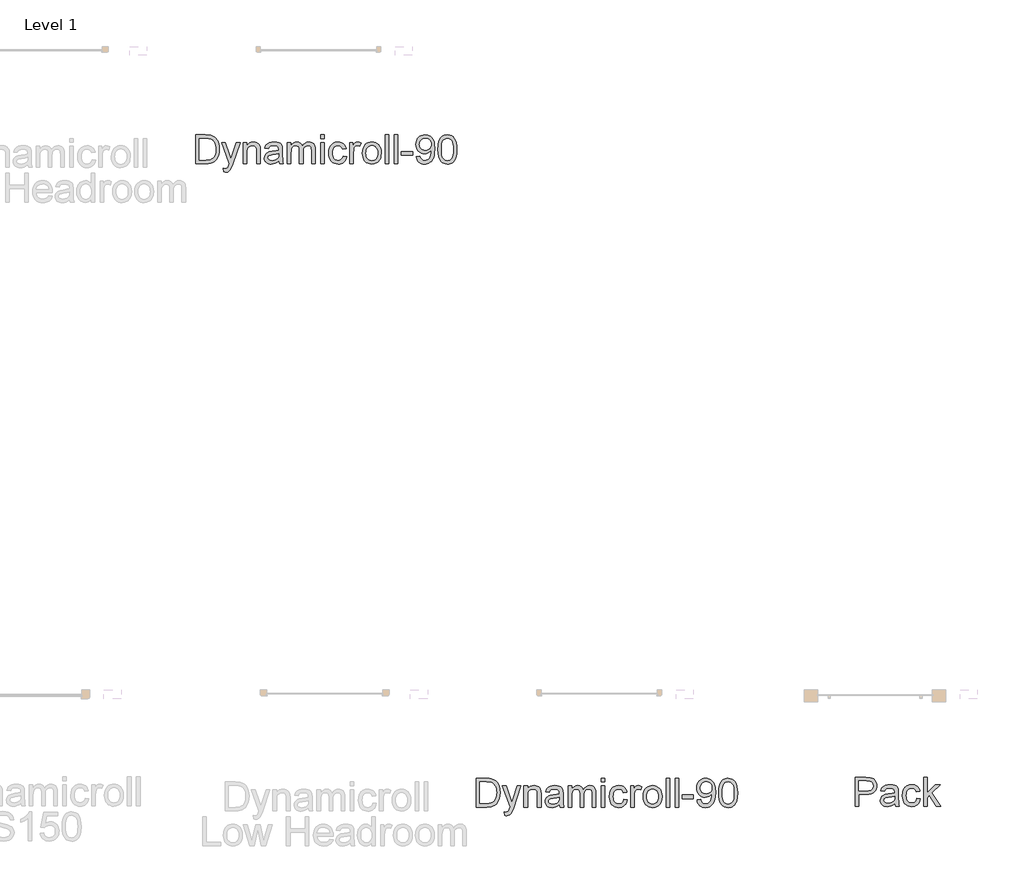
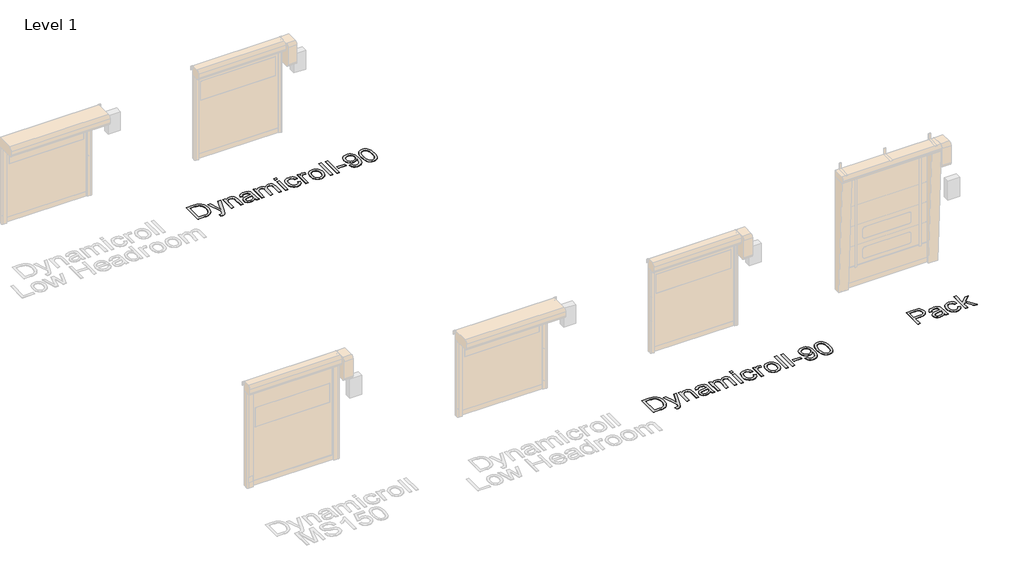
# One storey, part 11 of 20: 3 proxies.
"""IFC4 building model written with IfcOpenShell, lengths in millimetres."""

import ifcopenshell
import ifcopenshell.guid

model = None  # the IFC model being written
_history = None  # IfcOwnerHistory: only IFC2X3 demands one
_inside = {}  # id of a spatial element -> (the spatial element, [elements in it])
_under = {}  # id of a project, library or spatial element -> (it, [spatial elements below it])
_declared = {}  # id of a project -> (the project, [libraries it declares])
_typed = {}  # id of a type object -> (the type object, [elements of that type])
_made_of = {}  # id of a material, layer set ... -> (it, [elements and type objects made of it])


def new_model(schema):
    """Start an empty IFC model of exactly this schema.

    Asked for "IFC4X3", IfcOpenShell would pick the latest addendum, in which some entities
    have other attributes; the version numbers below select the first issue.
    IFC2X3 requires an IfcOwnerHistory on every rooted entity: one is made here for all.
    """
    global model, _history
    if schema == "IFC4X3":
        model = ifcopenshell.file(schema_version=(4, 3, 0, 0))
    else:
        model = ifcopenshell.file(schema=schema)
    _inside.clear()
    _under.clear()
    _declared.clear()
    _typed.clear()
    _made_of.clear()
    _history = None
    if model.schema == "IFC2X3":
        org = make("IfcOrganization", Name="unknown")
        user = make(
            "IfcPersonAndOrganization",
            ThePerson=make("IfcPerson", FamilyName="unknown"),
            TheOrganization=org,
        )
        app = make(
            "IfcApplication",
            ApplicationDeveloper=org,
            Version="unknown",
            ApplicationFullName="unknown",
            ApplicationIdentifier="unknown",
        )
        _history = make(
            "IfcOwnerHistory",
            OwningUser=user,
            OwningApplication=app,
            ChangeAction="ADDED",
            CreationDate=0,
        )
    return model


def make(cls, **values):
    """One entity of the class cls with the attributes given. An attribute that is None is left unset."""
    return model.create_entity(
        cls, **{name: value for name, value in values.items() if value is not None}
    )


def rooted(cls, **values):
    """An entity with a GlobalId (a new one), such as an element, a storey or a relation."""
    return make(cls, GlobalId=ifcopenshell.guid.new(), OwnerHistory=_history, **values)


def si_unit(unit_type, name, prefix=None):
    """IfcSIUnit, for example si_unit("LENGTHUNIT", "METRE", prefix="MILLI")."""
    return make("IfcSIUnit", UnitType=unit_type, Prefix=prefix, Name=name)


def assignment(units):
    """IfcUnitAssignment: the units of a project."""
    return None if units is None else make("IfcUnitAssignment", Units=units)


def point(xyz):
    """IfcCartesianPoint."""
    return None if xyz is None else make("IfcCartesianPoint", Coordinates=xyz)


def direction(xyz):
    """IfcDirection."""
    return None if xyz is None else make("IfcDirection", DirectionRatios=xyz)


def frame(location, z_axis=None, x_axis=None):
    """IfcAxis2Placement3D, a coordinate frame: its origin and axes. An axis left out is left unset."""
    return make(
        "IfcAxis2Placement3D",
        Location=point(location),
        Axis=direction(z_axis),
        RefDirection=direction(x_axis),
    )


def origin():
    """The frame at (0, 0, 0) with its axes left unset."""
    return frame((0.0, 0.0, 0.0))


def origin_with_axes():
    """The frame at (0, 0, 0) with the z axis (0, 0, 1) and the x axis (1, 0, 0) written out."""
    return frame((0.0, 0.0, 0.0), z_axis=(0.0, 0.0, 1.0), x_axis=(1.0, 0.0, 0.0))


def place(relative_to, where):
    """IfcLocalPlacement: puts the frame where relative to a parent placement (None: the world)."""
    return make(
        "IfcLocalPlacement", PlacementRelTo=relative_to, RelativePlacement=where
    )


def context(
    kind, dimensions, precision=None, world=None, true_north=None, identifier=None
):
    """IfcGeometricRepresentationContext, for example the 3D "Model" context."""
    return make(
        "IfcGeometricRepresentationContext",
        ContextIdentifier=identifier,
        ContextType=kind,
        CoordinateSpaceDimension=dimensions,
        Precision=precision,
        WorldCoordinateSystem=world,
        TrueNorth=true_north,
    )


def project(units=None, contexts=None):
    """IfcProject with its units and contexts."""
    return rooted(
        "IfcProject",
        Name="project",
        RepresentationContexts=contexts,
        UnitsInContext=assignment(units),
    )


def spatial(cls, under=None, at=None, **own):
    """A site, building, storey or space (cls), placed at a placement, below another one or the project."""
    s = rooted(cls, ObjectPlacement=at, **own)
    if under is not None:
        _under.setdefault(under.id(), (under, []))[1].append(s)
    return s


def polyline(points):
    """IfcPolyline through the points."""
    return make("IfcPolyline", Points=[point(p) for p in points])


def outline(outer, holes=None, kind="AREA"):
    """IfcArbitraryClosedProfileDef: a profile drawn as a closed curve; with holes, ...WithVoids."""
    if holes is None:
        return make("IfcArbitraryClosedProfileDef", ProfileType=kind, OuterCurve=outer)
    return make(
        "IfcArbitraryProfileDefWithVoids",
        ProfileType=kind,
        OuterCurve=outer,
        InnerCurves=holes,
    )


def extrude(swept, where, along, depth):
    """IfcExtrudedAreaSolid: the profile swept, set in the frame where, extruded along a direction by depth."""
    return make(
        "IfcExtrudedAreaSolid",
        SweptArea=swept,
        Position=where,
        ExtrudedDirection=direction(along),
        Depth=depth,
    )


def shape(context_of_items, identifier, shape_type, items):
    """IfcShapeRepresentation: the items that make up one representation, for example the "Body"."""
    return make(
        "IfcShapeRepresentation",
        ContextOfItems=context_of_items,
        RepresentationIdentifier=identifier,
        RepresentationType=shape_type,
        Items=items,
    )


def made_of(thing, what):
    """Note that an element or type object is made of a material, layer set ...; save() writes the relation."""
    if what is not None:
        _made_of.setdefault(what.id(), (what, []))[1].append(thing)
    return thing


def element(
    cls,
    number,
    at=None,
    inside=None,
    cuts=None,
    type_object=None,
    material=None,
    context=None,
    identifier="Body",
    shape_type=None,
    held_by="IfcProductDefinitionShape",
    body=None,
    shapes=None,
    **own,
):
    """One element of the class cls, such as IfcWall. Its Tag is "e" and its number.

    at: its placement. inside: the storey or other place that contains it. cuts: it is an
    opening in that element (IfcRelVoidsElement). A single representation is given by context,
    identifier, shape_type and body (its items); several are given by shapes. held_by: the class
    of the entity that holds the representations. save() writes the other relations.
    """
    e = rooted(cls, Tag="e%d" % number, ObjectPlacement=at, **own)
    if body is not None:
        shapes = [shape(context, identifier, shape_type, body)]
    if shapes is not None:
        e.Representation = make(held_by, Representations=shapes)
    if inside is not None:
        _inside.setdefault(inside.id(), (inside, []))[1].append(e)
    if cuts is not None:
        rooted(
            "IfcRelVoidsElement", RelatingBuildingElement=cuts, RelatedOpeningElement=e
        )
    if type_object is not None:
        _typed.setdefault(type_object.id(), (type_object, []))[1].append(e)
    return made_of(e, material)


def aggregate(whole, parts):
    """IfcRelAggregates: a whole, such as a stair, and the parts it consists of."""
    return rooted("IfcRelAggregates", RelatingObject=whole, RelatedObjects=parts)


def save(model, path):
    """Write the relations noted so far, then the file.

    IfcRelAggregates (storeys below a building ...), IfcRelContainedInSpatialStructure (elements
    in a storey), IfcRelDefinesByType, IfcRelAssociatesMaterial and IfcRelDeclares: one each for
    every whole, place, type object, material and project.
    """
    for whole, parts in _under.values():
        aggregate(whole, parts)
    for where, things in _inside.values():
        rooted(
            "IfcRelContainedInSpatialStructure",
            RelatedElements=things,
            RelatingStructure=where,
        )
    for kind, things in _typed.values():
        rooted("IfcRelDefinesByType", RelatedObjects=things, RelatingType=kind)
    for what, things in _made_of.values():
        rooted("IfcRelAssociatesMaterial", RelatedObjects=things, RelatingMaterial=what)
    for by, libraries in _declared.values():
        rooted("IfcRelDeclares", RelatingContext=by, RelatedDefinitions=libraries)
    model.write(path)


model = new_model("IFC4")

# Units and contexts
model_context = context("Model", 3, world=origin())
ifc_project = project(units=[si_unit("LENGTHUNIT", "METRE", prefix="MILLI")], contexts=[model_context])

# Site, building, storey
site = spatial("IfcSite", under=ifc_project)
building = spatial("IfcBuilding", under=site)
storey = spatial("IfcBuildingStorey", under=building, Name="Level 1", Elevation=0.0)

# Proxies
placement = place(None, origin())
element("IfcBuildingElementProxy", 1, Name="500mm", ObjectType="500mm", at=placement, inside=storey, context=model_context, shape_type="SweptSolid", body=[
    extrude(outline(polyline([(14635.3862268, 30417.6094957), (14635.3862268, 30919.8910465), (14808.6586466, 30919.8910465), (14860.4380374, 30918.0822933), (14898.299226, 30912.6560339), (14938.3370499, 30898.7071749), (14972.1208797, 30876.7262257), (14990.7372415, 30858.7613216), (15006.8550715, 30838.4664982), (15020.4743695, 30815.8417555), (15031.5951356, 30790.8870935), (15046.4023859, 30734.9077166), (15051.338136, 30671.4480724), (15047.9965413, 30617.5380317), (15037.9717569, 30570.0965827), (15022.7046541, 30529.7062053), (15003.636104, 30496.9493794), (14981.6858116, 30471.0903408), (14957.7734819, 30451.3933256), (14930.320288, 30436.7853447), (14897.7474031, 30426.193409), (14859.9935133, 30419.755474), (14816.9973051, 30417.6094957), (14635.3862268, 30417.6094957)]), holes=[polyline([(14698.1714207, 30480.3946896), (14809.2717832, 30480.3946896), (14855.2263758, 30482.6632952), (14890.0831948, 30489.4691121), (14916.3867575, 30500.4136015), (14936.6815809, 30515.0982245), (14958.4939175, 30542.2755068), (14974.8799947, 30577.4542226), (14985.1347053, 30620.787656), (14988.5529422, 30672.4290911), (14986.8783127, 30708.8800654), (14981.8544242, 30740.8551422), (14973.4812767, 30768.3543213), (14961.7588702, 30791.3776028), (14947.6375665, 30810.4461529), (14932.0677275, 30826.0811377), (14915.0493531, 30838.2825572), (14896.5824434, 30847.0504114), (14860.4686942, 30854.5919923), (14807.5550006, 30857.1058526), (14698.1714207, 30857.1058526), (14698.1714207, 30480.3946896)])]), origin_with_axes(), (0.0, 0.0, 1.0), 5.0),
    extrude(outline(polyline([(15129.8196283, 30276.3428096), (15121.9714791, 30336.7980841), (15153.8545854, 30331.2798542), (15170.623873, 30333.0119653), (15183.653027, 30338.2082984), (15193.8004387, 30346.5009717), (15201.9244994, 30357.5221032), (15219.0923258, 30403.7526072), (15223.9974191, 30418.9583964), (15090.5788822, 30786.4725096), (15156.7976413, 30786.4725096), (15227.5536117, 30581.6848656), (15252.2017054, 30499.769808), (15276.8497991, 30572.1199337), (15349.5678068, 30786.4725096), (15415.2960566, 30786.4725096), (15286.9052403, 30408.7803278), (15253.5506061, 30326.8652703), (15236.4747501, 30300.7149918), (15217.1302885, 30282.5968035), (15194.65883, 30272.0201961), (15168.2019832, 30268.4946604), (15150.0224812, 30270.4566977), (15129.8196283, 30276.3428096)])), origin_with_axes(), (0.0, 0.0, 1.0), 5.0),
    extrude(outline(polyline([(15467.2900453, 30417.6094957), (15467.2900453, 30786.4725096), (15530.0752391, 30786.4725096), (15530.0752391, 30734.9690302), (15551.8875757, 30760.9353677), (15578.0838395, 30779.4827517), (15608.6640303, 30790.611182), (15643.6281483, 30794.3206588), (15674.5762211, 30791.3316176), (15702.9184632, 30782.3644939), (15726.5548814, 30768.5382623), (15743.3854826, 30750.971897), (15754.8051529, 30729.7113834), (15762.2087781, 30704.8027066), (15765.519716, 30644.1021774), (15765.519716, 30417.6094957), (15702.7345222, 30417.6094957), (15702.7345222, 30635.6408915), (15700.925769, 30668.1064776), (15695.4995096, 30691.1910728), (15685.4900536, 30707.7304342), (15669.9317109, 30720.5603188), (15649.9894411, 30728.7916784), (15626.8282038, 30731.5354649), (15607.7634859, 30729.9949591), (15590.0553327, 30725.3734415), (15573.7037445, 30717.6709123), (15558.7087211, 30706.8873713), (15546.1815727, 30691.7965453), (15537.2336096, 30671.1721609), (15531.8648317, 30645.0142182), (15530.0752391, 30613.3227172), (15530.0752391, 30417.6094957), (15467.2900453, 30417.6094957)])), origin_with_axes(), (0.0, 0.0, 1.0), 5.0),
    extrude(outline(polyline([(16087.2938345, 30464.6983911), (16057.2961234, 30438.9773083), (16026.4093643, 30422.146707), (15993.9284498, 30412.8576866), (15959.1482728, 30409.7613465), (15931.1930733, 30411.6237491), (15906.6791032, 30417.2109569), (15885.6063627, 30426.5229699), (15867.9748517, 30439.5597881), (15854.0528174, 30455.493677), (15844.1085072, 30473.4969022), (15838.1419211, 30493.5694635), (15836.1530591, 30515.7113611), (15839.1574287, 30541.7390123), (15848.1705376, 30565.3754305), (15862.0734113, 30585.6089402), (15879.7470755, 30601.427866), (15900.5170798, 30613.3840308), (15923.7089739, 30622.0292577), (15978.0328819, 30631.4715623), (16042.2282901, 30641.4043761), (16086.9259525, 30653.0539726), (16087.2938345, 30667.0334885), (16082.971221, 30695.0538338), (16070.0033807, 30713.3866199), (16056.9282414, 30721.3267396), (16041.0020167, 30726.9982537), (16000.5963109, 30731.5354649), (15963.1949748, 30728.5157669), (15937.0753531, 30719.4566728), (15919.2637332, 30702.7027136), (15906.7864022, 30676.5984203), (15844.0012083, 30684.4465696), (15854.8997124, 30718.7822224), (15871.1631623, 30745.7602354), (15894.3090712, 30766.392284), (15925.8549522, 30781.6900436), (15964.4365765, 30791.163005), (16008.6897148, 30794.3206588), (16051.1341, 30791.530887), (16084.7799742, 30783.1615716), (16110.1485034, 30770.5769417), (16127.7608539, 30755.1412263), (16139.4411073, 30736.0573478), (16147.013345, 30712.5282285), (16150.0790283, 30657.5911839), (16150.0790283, 30579.4775736), (16153.2673389, 30470.400562), (16157.9884912, 30443.4378775), (16165.7753268, 30417.6094957), (16102.9901329, 30417.6094957), (16092.9346917, 30439.4371608), (16087.2938345, 30464.6983911)]), holes=[polyline([(16087.2938345, 30590.2687788), (16045.1100323, 30579.8147988), (15986.0036585, 30571.0162877), (15931.9863188, 30560.8382192), (15917.9301609, 30553.8791181), (15907.5221662, 30544.2835294), (15901.0842312, 30532.7872171), (15898.9382529, 30520.1259451), (15903.61342, 30501.4559338), (15917.638921, 30486.1581742), (15940.7081878, 30475.9494488), (15972.514652, 30472.5465403), (16006.2371682, 30476.3020024), (16036.0356098, 30487.5683885), (16060.1931941, 30504.1690635), (16076.9931386, 30523.9273923), (16084.442749, 30544.2835294), (16086.9259525, 30572.4878157), (16087.2938345, 30590.2687788)])]), origin_with_axes(), (0.0, 0.0, 1.0), 5.0),
    extrude(outline(polyline([(16236.4086698, 30417.6094957), (16236.4086698, 30786.4725096), (16299.1938637, 30786.4725096), (16299.1938637, 30725.7719804), (16318.0784728, 30753.6543699), (16342.3586844, 30775.4973634), (16371.2067642, 30789.6148349), (16403.7949776, 30794.3206588), (16438.7131104, 30789.5228644), (16466.7027988, 30775.1294814), (16487.6107589, 30752.0908714), (16501.2837064, 30721.3573964), (16524.1690321, 30753.2788237), (16550.2733254, 30776.0798432), (16579.5965861, 30789.7604549), (16612.1388142, 30794.3206588), (16637.2735851, 30792.4237673), (16659.3350085, 30786.7330926), (16678.3230844, 30777.248635), (16694.2378128, 30763.9703942), (16706.8186107, 30746.7450862), (16715.8048948, 30725.4194268), (16721.1966653, 30699.993416), (16722.9939221, 30670.4670537), (16722.9939221, 30417.6094957), (16660.2087283, 30417.6094957), (16660.2087283, 30643.4890408), (16658.7525287, 30674.8049956), (16654.38393, 30695.9122251), (16646.1985556, 30710.3669218), (16633.292029, 30721.7252784), (16616.6913539, 30729.0829183), (16597.4235344, 30731.5354649), (16579.631075, 30729.9643023), (16563.4097783, 30725.2508142), (16548.7596443, 30717.3950008), (16535.6806729, 30706.3968619), (16524.9239567, 30691.934501), (16517.2405879, 30673.6860212), (16512.6305667, 30651.6514225), (16511.0938929, 30625.830705), (16511.0938929, 30417.6094957), (16448.3086991, 30417.6094957), (16448.3086991, 30650.4787987), (16444.6758644, 30685.9794112), (16433.7773603, 30711.3019552), (16425.3505633, 30720.1541157), (16414.6015113, 30726.4770875), (16386.1366419, 30731.5354649), (16361.9484007, 30728.1632133), (16339.6608832, 30718.0464585), (16321.2667834, 30701.430455), (16308.7587956, 30678.5604576), (16301.5850967, 30646.8306356), (16299.1938637, 30603.635158), (16299.1938637, 30417.6094957), (16236.4086698, 30417.6094957)])), origin_with_axes(), (0.0, 0.0, 1.0), 5.0),
    extrude(outline(polyline([(16817.1717129, 30857.1058526), (16817.1717129, 30919.8910465), (16879.9569067, 30919.8910465), (16879.9569067, 30857.1058526), (16817.1717129, 30857.1058526)])), origin_with_axes(), (0.0, 0.0, 1.0), 5.0),
    extrude(outline(polyline([(16817.1717129, 30417.6094957), (16817.1717129, 30786.4725096), (16879.9569067, 30786.4725096), (16879.9569067, 30417.6094957), (16817.1717129, 30417.6094957)])), origin_with_axes(), (0.0, 0.0, 1.0), 5.0),
    extrude(outline(polyline([(17209.5791744, 30551.0280326), (17272.3643683, 30543.1798834), (17265.5355587, 30513.5538865), (17254.8593167, 30487.3384622), (17240.3356421, 30464.5336106), (17221.9645349, 30445.1393317), (17200.5200803, 30429.6614632), (17176.7763632, 30418.6058428), (17150.7333836, 30411.9724706), (17122.3911416, 30409.7613465), (17087.1779368, 30412.8461903), (17055.605231, 30422.1007218), (17027.6730241, 30437.5249408), (17003.3813161, 30459.1188475), (16983.7187899, 30486.4762388), (16969.6741283, 30519.1909116), (16961.2473314, 30557.262866), (16958.438399, 30600.692102), (16963.2361934, 30656.56418), (16977.6295765, 30704.9866476), (16988.4820953, 30725.9367608), (17001.8484745, 30744.089438), (17017.7287139, 30759.4446792), (17036.1228137, 30772.0024844), (17077.1263277, 30788.7411152), (17121.5327502, 30794.3206588), (17149.3883151, 30792.4046067), (17174.5843996, 30786.6564506), (17197.1210039, 30777.0761903), (17216.998128, 30763.6638259), (17233.8785466, 30746.7259257), (17247.4250347, 30726.569058), (17257.6375921, 30703.1932229), (17264.516219, 30676.5984203), (17201.7310252, 30668.7502711), (17190.3420117, 30696.1421513), (17172.6070339, 30715.7778528), (17149.5071103, 30727.5960619), (17122.0232596, 30731.5354649), (17100.6899359, 30729.5964203), (17081.4489412, 30723.7792862), (17064.3002753, 30714.0840628), (17049.2439382, 30700.51075), (17036.9850371, 30682.7451153), (17028.2286792, 30660.4729262), (17022.9748645, 30633.6941826), (17021.2235929, 30602.4088846), (17022.9365434, 30570.6522378), (17028.075395, 30543.5630938), (17036.6401477, 30521.1414526), (17048.6308015, 30503.3873143), (17063.3882345, 30489.8944757), (17080.2533247, 30480.2567338), (17099.2260722, 30474.4740887), (17120.3064769, 30472.5465403), (17152.8180482, 30477.3596631), (17179.4741645, 30491.7990314), (17190.2538734, 30502.7205282), (17198.8646113, 30516.2325273), (17209.5791744, 30551.0280326)])), origin_with_axes(), (0.0, 0.0, 1.0), 5.0),
    extrude(outline(polyline([(17327.3014129, 30417.6094957), (17327.3014129, 30786.4725096), (17382.2384575, 30786.4725096), (17382.2384575, 30731.9033469), (17402.5332809, 30763.5411985), (17421.233949, 30782.180553), (17439.9959307, 30791.2856323), (17460.4746951, 30794.3206588), (17491.7446647, 30789.4768792), (17523.5051436, 30774.9455404), (17502.5358699, 30718.6595951), (17480.4629502, 30728.3164975), (17458.3900305, 30731.5354649), (17439.6433771, 30728.4391248), (17422.8894179, 30719.1501044), (17409.3544262, 30704.373511), (17400.2646752, 30684.8144516), (17392.6311238, 30649.7430347), (17390.0866067, 30611.4833072), (17390.0866067, 30417.6094957), (17327.3014129, 30417.6094957)])), origin_with_axes(), (0.0, 0.0, 1.0), 5.0),
    extrude(outline(polyline([(17547.0495913, 30602.0410026), (17550.4448356, 30649.8120126), (17560.6305683, 30690.976475), (17577.6067895, 30725.5343899), (17601.3734993, 30753.4857573), (17625.3011574, 30771.3510267), (17651.7120189, 30784.1119334), (17680.606084, 30791.7684775), (17711.9833525, 30794.3206588), (17746.6217416, 30791.2128224), (17777.9415285, 30781.889313), (17805.9427133, 30766.3501308), (17830.6252959, 30744.5952758), (17850.7706673, 30717.3605118), (17865.1602182, 30685.381603), (17873.7939488, 30648.6585492), (17876.671859, 30607.1913506), (17871.5828247, 30543.7623632), (17865.2215319, 30517.7270479), (17856.3157219, 30495.4778514), (17844.9765259, 30476.2598492), (17831.3150747, 30459.3181169), (17815.3313684, 30444.6526545), (17797.025407, 30432.2634619), (17756.2978045, 30415.3868753), (17711.9833525, 30409.7613465), (17676.8391256, 30412.8576866), (17645.2280988, 30422.146707), (17617.1502719, 30437.6284076), (17592.6056451, 30459.3027885), (17572.6748715, 30486.8019677), (17558.4386048, 30519.7580631), (17549.8968447, 30558.1710747), (17547.0495913, 30602.0410026)]), holes=[polyline([(17609.8347852, 30602.16363), (17611.6512025, 30571.7098986), (17617.1004546, 30545.3411901), (17626.1825413, 30523.0575047), (17638.8974628, 30504.8588423), (17654.363835, 30490.7222102), (17671.700274, 30480.6246158), (17690.9067799, 30474.5660592), (17711.9833525, 30472.5465403), (17732.9526262, 30474.5775555), (17752.08249, 30480.6706011), (17769.3729437, 30490.825677), (17784.8239875, 30505.0427833), (17797.538909, 30523.4215546), (17806.6209958, 30546.0616257), (17812.0702478, 30572.9629966), (17813.8866652, 30604.1256673), (17812.0587515, 30633.6137085), (17806.5750105, 30659.2926381), (17797.4354422, 30681.1624563), (17784.6400465, 30699.223163), (17769.1315212, 30713.3597951), (17751.8525637, 30723.4573895), (17732.8031742, 30729.5159461), (17711.9833525, 30731.5354649), (17690.9067799, 30729.5236103), (17671.700274, 30723.4880463), (17654.363835, 30713.428773), (17638.8974628, 30699.3457904), (17626.1825413, 30681.2007774), (17617.1004546, 30658.955413), (17611.6512025, 30632.6096972), (17609.8347852, 30602.16363)])]), origin_with_axes(), (0.0, 0.0, 1.0), 5.0),
    extrude(outline(polyline([(17947.3052021, 30417.6094957), (17947.3052021, 30919.8910465), (18010.0903959, 30919.8910465), (18010.0903959, 30417.6094957), (17947.3052021, 30417.6094957)])), origin_with_axes(), (0.0, 0.0, 1.0), 5.0),
    extrude(outline(polyline([(18104.2681867, 30417.6094957), (18104.2681867, 30919.8910465), (18167.0533805, 30919.8910465), (18167.0533805, 30417.6094957), (18104.2681867, 30417.6094957)])), origin_with_axes(), (0.0, 0.0, 1.0), 5.0),
    extrude(outline(polyline([(18229.8385744, 30566.7243311), (18229.8385744, 30629.509525), (18426.0423051, 30629.509525), (18426.0423051, 30566.7243311), (18229.8385744, 30566.7243311)])), origin_with_axes(), (0.0, 0.0, 1.0), 5.0),
    extrude(outline(polyline([(18488.827499, 30543.1798834), (18551.6126928, 30551.0280326), (18562.3425843, 30515.3894644), (18579.8169791, 30491.1245811), (18603.6066815, 30477.1910505), (18633.2824957, 30472.5465403), (18659.9079551, 30475.5355816), (18684.1115247, 30484.5027052), (18704.2224072, 30498.4668926), (18718.569805, 30516.4471251), (18729.4376522, 30540.0835433), (18739.109883, 30571.0162877), (18745.9156999, 30606.5169003), (18748.1843056, 30643.8569228), (18747.8164236, 30656.1196559), (18726.0654006, 30629.5708386), (18697.6005312, 30608.5402512), (18664.4758233, 30594.8366469), (18628.7452845, 30590.2687788), (18598.9200181, 30593.0585506), (18571.493649, 30601.427866), (18546.466177, 30615.376725), (18523.8376022, 30634.9051275), (18505.0871167, 30658.993734), (18491.6939129, 30686.6232047), (18483.6579905, 30717.7935396), (18480.9793497, 30752.5047387), (18483.7882821, 30788.3732332), (18492.215079, 30820.5629078), (18506.2597406, 30849.0737624), (18525.9222668, 30873.9057971), (18549.815436, 30894.0243437), (18576.5520264, 30908.3947341), (18606.1320381, 30917.0169684), (18638.555471, 30919.8910465), (18662.4946254, 30918.2509059), (18685.3837833, 30913.3304842), (18707.2229447, 30905.1297814), (18728.0121095, 30893.6487975), (18747.057667, 30879.1327871), (18763.6660062, 30861.8270049), (18777.8371272, 30841.7314509), (18789.57103, 30818.8461251), (18798.771912, 30791.8527837), (18805.3439706, 30759.4331829), (18810.6016174, 30678.315203), (18805.359299, 30592.3074582), (18798.806401, 30556.6267368), (18789.6323437, 30525.828116), (18777.8716162, 30499.1605034), (18763.5587073, 30475.8728067), (18746.6936171, 30455.9650258), (18727.2763455, 30439.4371608), (18705.6977672, 30426.453992), (18682.3487569, 30417.1803001), (18657.2293144, 30411.6160849), (18630.3394398, 30409.7613465), (18602.1428177, 30411.949478), (18576.6593253, 30418.5138723), (18553.8889627, 30429.4545296), (18533.8317297, 30444.7714497), (18516.9934642, 30464.0507655), (18503.8800039, 30486.8786097), (18494.4913489, 30513.2549824), (18488.827499, 30543.1798834)]), holes=[polyline([(18747.8164236, 30753.9762667), (18746.1226336, 30776.478382), (18741.0412635, 30796.5279508), (18732.5723134, 30814.1249729), (18720.7157833, 30829.2694483), (18706.0541529, 30841.4478752), (18689.1699022, 30850.1467516), (18670.0630311, 30855.3660774), (18648.7335395, 30857.1058526), (18626.7219335, 30855.2319537), (18606.7949921, 30849.610257), (18588.9527153, 30840.2407624), (18573.1951032, 30827.12347), (18560.3192334, 30811.0248006), (18551.1221835, 30792.7111751), (18545.6039536, 30772.1825933), (18543.7645436, 30749.4390554), (18545.5043189, 30729.0407652), (18550.7236447, 30710.6428333), (18559.422521, 30694.2452598), (18571.6009479, 30679.8480446), (18586.7530876, 30668.1256381), (18604.3731023, 30659.7524906), (18624.4609921, 30654.7286021), (18647.0167569, 30653.0539726), (18668.0511764, 30654.7286021), (18687.1312228, 30659.7524906), (18704.2568961, 30668.1256381), (18719.4281963, 30679.8480446), (18731.8480457, 30694.5288355), (18740.7193668, 30711.7771361), (18746.0421594, 30731.5929465), (18747.8164236, 30753.9762667)])]), origin_with_axes(), (0.0, 0.0, 1.0), 5.0),
    extrude(outline(polyline([(18865.538662, 30664.7035692), (18870.1525154, 30745.1011135), (18883.9940755, 30809.2198796), (18894.3407566, 30835.4199754), (18906.9253865, 30858.040886), (18921.7479652, 30877.0826114), (18938.8084927, 30892.5451515), (18958.1644506, 30904.5089806), (18979.8733205, 30913.0545727), (19003.9351022, 30918.181928), (19030.3497959, 30919.8910465), (19069.038719, 30915.8443445), (19103.6809402, 30903.7042387), (19132.6516474, 30883.9459099), (19154.3260282, 30857.044539), (19170.696777, 30823.2300522), (19183.7565879, 30782.7323759), (19192.3098443, 30731.3055387), (19195.1609297, 30664.7035692), (19190.5930616, 30584.7658773), (19176.8894573, 30520.8003954), (19166.6232504, 30494.5888032), (19154.096102, 30471.9334037), (19139.3080122, 30452.8341968), (19122.258981, 30437.2911825), (19102.8800305, 30425.2468792), (19081.1021828, 30416.6438055), (19056.9254379, 30411.4819612), (19030.3497959, 30409.7613465), (18995.7688883, 30412.7503877), (18965.1120554, 30421.7175113), (18938.3792971, 30436.6627174), (18915.5706134, 30457.5860059), (18893.6816347, 30495.4088735), (18878.0466499, 30542.5360899), (18868.665659, 30598.9676551), (18865.538662, 30664.7035692)]), holes=[polyline([(18928.3238559, 30664.8261965), (18930.1632659, 30610.2455376), (18935.6814958, 30566.0652092), (18944.8785457, 30532.2852114), (18957.7544155, 30508.9055442), (18973.3280866, 30492.99848), (18990.6185404, 30481.6362913), (19009.6257768, 30474.8189781), (19030.3497959, 30472.5465403), (19051.0738149, 30474.8266423), (19070.0810514, 30481.6669481), (19087.3715051, 30493.0674579), (19102.9451763, 30509.0281715), (19115.8210461, 30532.4461598), (19125.018096, 30566.2184934), (19130.5363259, 30610.3451723), (19132.3757359, 30664.8261965), (19130.5976396, 30717.9621522), (19125.2633506, 30761.3645634), (19116.3728691, 30795.0334302), (19103.9261949, 30818.9687525), (19088.6131069, 30835.6537338), (19071.1233837, 30847.5715776), (19051.4570253, 30854.7222839), (19029.6140319, 30857.1058526), (19008.9973117, 30855.0058596), (18990.3119721, 30848.7058804), (18973.5580129, 30838.2059151), (18958.7354341, 30823.5059637), (18945.4303687, 30797.4476558), (18935.9267504, 30762.3149252), (18930.2245795, 30718.1077721), (18928.3238559, 30664.8261965)])]), origin_with_axes(), (0.0, 0.0, 1.0), 5.0),
])
element("IfcBuildingElementProxy", 2, Name="500mm", ObjectType="500mm", at=placement, inside=storey, context=model_context, shape_type="SweptSolid", body=[
    extrude(outline(polyline([(19535.3862268, 19179.9547363), (19535.3862268, 19682.236287), (19708.6586466, 19682.236287), (19760.4380374, 19680.4275339), (19798.299226, 19675.0012744), (19838.3370499, 19661.0524154), (19872.1208797, 19639.0714662), (19890.7372415, 19621.1065621), (19906.8550715, 19600.8117387), (19920.4743695, 19578.186996), (19931.5951356, 19553.232334), (19946.4023859, 19497.2529571), (19951.338136, 19433.7933129), (19947.9965413, 19379.8832722), (19937.9717569, 19332.4418233), (19922.7046541, 19292.0514459), (19903.636104, 19259.2946199), (19881.6858116, 19233.4355813), (19857.7734819, 19213.7385661), (19830.320288, 19199.1305853), (19797.7474031, 19188.5386495), (19759.9935133, 19182.1007146), (19716.9973051, 19179.9547363), (19535.3862268, 19179.9547363)]), holes=[polyline([(19598.1714207, 19242.7399301), (19709.2717832, 19242.7399301), (19755.2263758, 19245.0085357), (19790.0831948, 19251.8143526), (19816.3867575, 19262.758842), (19836.6815809, 19277.443465), (19858.4939175, 19304.6207474), (19874.8799947, 19339.7994632), (19885.1347053, 19383.1328965), (19888.5529422, 19434.7743316), (19886.8783127, 19471.2253059), (19881.8544242, 19503.2003827), (19873.4812767, 19530.6995618), (19861.7588702, 19553.7228434), (19847.6375665, 19572.7913934), (19832.0677275, 19588.4263782), (19815.0493531, 19600.6277977), (19796.5824434, 19609.395652), (19760.4686942, 19616.9372329), (19707.5550006, 19619.4510932), (19598.1714207, 19619.4510932), (19598.1714207, 19242.7399301)])]), origin_with_axes(), (0.0, 0.0, 1.0), 5.0),
    extrude(outline(polyline([(20029.8196283, 19038.6880501), (20021.9714791, 19099.1433246), (20053.8545854, 19093.6250947), (20070.623873, 19095.3572058), (20083.653027, 19100.553539), (20093.8004387, 19108.8462123), (20101.9244994, 19119.8673437), (20119.0923258, 19166.0978478), (20123.9974191, 19181.3036369), (19990.5788822, 19548.8177501), (20056.7976413, 19548.8177501), (20127.5536117, 19344.0301061), (20152.2017054, 19262.1150485), (20176.8497991, 19334.4651742), (20249.5678068, 19548.8177501), (20315.2960566, 19548.8177501), (20186.9052403, 19171.1255684), (20153.5506061, 19089.2105108), (20136.4747501, 19063.0602323), (20117.1302885, 19044.942044), (20094.65883, 19034.3654367), (20068.2019832, 19030.8399009), (20050.0224812, 19032.8019382), (20029.8196283, 19038.6880501)])), origin_with_axes(), (0.0, 0.0, 1.0), 5.0),
    extrude(outline(polyline([(20367.2900453, 19179.9547363), (20367.2900453, 19548.8177501), (20430.0752391, 19548.8177501), (20430.0752391, 19497.3142708), (20451.8875757, 19523.2806083), (20478.0838395, 19541.8279922), (20508.6640303, 19552.9564225), (20543.6281483, 19556.6658993), (20574.5762211, 19553.6768581), (20602.9184632, 19544.7097345), (20626.5548814, 19530.8835028), (20643.3854826, 19513.3171375), (20654.8051529, 19492.0566239), (20662.2087781, 19467.1479472), (20665.519716, 19406.447418), (20665.519716, 19179.9547363), (20602.7345222, 19179.9547363), (20602.7345222, 19397.9861321), (20600.925769, 19430.4517181), (20595.4995096, 19453.5363133), (20585.4900536, 19470.0756747), (20569.9317109, 19482.9055593), (20549.9894411, 19491.1369189), (20526.8282038, 19493.8807055), (20507.7634859, 19492.3401996), (20490.0553327, 19487.7186821), (20473.7037445, 19480.0161528), (20458.7087211, 19469.2326118), (20446.1815727, 19454.1417858), (20437.2336096, 19433.5174014), (20431.8648317, 19407.3594587), (20430.0752391, 19375.6679577), (20430.0752391, 19179.9547363), (20367.2900453, 19179.9547363)])), origin_with_axes(), (0.0, 0.0, 1.0), 5.0),
    extrude(outline(polyline([(20987.2938345, 19227.0436316), (20957.2961234, 19201.3225488), (20926.4093643, 19184.4919475), (20893.9284498, 19175.2029271), (20859.1482728, 19172.106587), (20831.1930733, 19173.9689896), (20806.6791032, 19179.5561974), (20785.6063627, 19188.8682104), (20767.9748517, 19201.9050286), (20754.0528174, 19217.8389175), (20744.1085072, 19235.8421427), (20738.1419211, 19255.914704), (20736.1530591, 19278.0566016), (20739.1574287, 19304.0842528), (20748.1705376, 19327.720671), (20762.0734113, 19347.9541807), (20779.7470755, 19363.7731065), (20800.5170798, 19375.7292714), (20823.7089739, 19384.3744982), (20878.0328819, 19393.8168028), (20942.2282901, 19403.7496167), (20986.9259525, 19415.3992132), (20987.2938345, 19429.378729), (20982.971221, 19457.3990743), (20970.0033807, 19475.7318604), (20956.9282414, 19483.6719801), (20941.0020167, 19489.3434942), (20900.5963109, 19493.8807055), (20863.1949748, 19490.8610074), (20837.0753531, 19481.8019133), (20819.2637332, 19465.0479541), (20806.7864022, 19438.9436609), (20744.0012083, 19446.7918101), (20754.8997124, 19481.127463), (20771.1631623, 19508.105476), (20794.3090712, 19528.7375245), (20825.8549522, 19544.0352841), (20864.4365765, 19553.5082455), (20908.6897148, 19556.6658993), (20951.1341, 19553.8761275), (20984.7799742, 19545.5068121), (21010.1485034, 19532.9221822), (21027.7608539, 19517.4864668), (21039.4411073, 19498.4025883), (21047.013345, 19474.8734691), (21050.0790283, 19419.9364244), (21050.0790283, 19341.8228141), (21053.2673389, 19232.7458026), (21057.9884912, 19205.783118), (21065.7753268, 19179.9547363), (21002.9901329, 19179.9547363), (20992.9346917, 19201.7824013), (20987.2938345, 19227.0436316)]), holes=[polyline([(20987.2938345, 19352.6140193), (20945.1100323, 19342.1600393), (20886.0036585, 19333.3615282), (20831.9863188, 19323.1834597), (20817.9301609, 19316.2243586), (20807.5221662, 19306.6287699), (20801.0842312, 19295.1324576), (20798.9382529, 19282.4711856), (20803.61342, 19263.8011743), (20817.638921, 19248.5034147), (20840.7081878, 19238.2946893), (20872.514652, 19234.8917809), (20906.2371682, 19238.6472429), (20936.0356098, 19249.913629), (20960.1931941, 19266.514304), (20976.9931386, 19286.2726329), (20984.442749, 19306.6287699), (20986.9259525, 19334.8330562), (20987.2938345, 19352.6140193)])]), origin_with_axes(), (0.0, 0.0, 1.0), 5.0),
    extrude(outline(polyline([(21136.4086698, 19179.9547363), (21136.4086698, 19548.8177501), (21199.1938637, 19548.8177501), (21199.1938637, 19488.1172209), (21218.0784728, 19515.9996104), (21242.3586844, 19537.8426039), (21271.2067642, 19551.9600755), (21303.7949776, 19556.6658993), (21338.7131104, 19551.868105), (21366.7027988, 19537.4747219), (21387.6107589, 19514.436112), (21401.2837064, 19483.7026369), (21424.1690321, 19515.6240642), (21450.2733254, 19538.4250837), (21479.5965861, 19552.1056954), (21512.1388142, 19556.6658993), (21537.2735851, 19554.7690078), (21559.3350085, 19549.0783332), (21578.3230844, 19539.5938755), (21594.2378128, 19526.3156347), (21606.8186107, 19509.0903267), (21615.8048948, 19487.7646673), (21621.1966653, 19462.3386565), (21622.9939221, 19432.8122943), (21622.9939221, 19179.9547363), (21560.2087283, 19179.9547363), (21560.2087283, 19405.8342813), (21558.7525287, 19437.1502361), (21554.38393, 19458.2574656), (21546.1985556, 19472.7121623), (21533.292029, 19484.0705189), (21516.6913539, 19491.4281588), (21497.4235344, 19493.8807055), (21479.631075, 19492.3095428), (21463.4097783, 19487.5960547), (21448.7596443, 19479.7402413), (21435.6806729, 19468.7421025), (21424.9239567, 19454.2797415), (21417.2405879, 19436.0312617), (21412.6305667, 19413.9966631), (21411.0938929, 19388.1759455), (21411.0938929, 19179.9547363), (21348.3086991, 19179.9547363), (21348.3086991, 19412.8240392), (21344.6758644, 19448.3246517), (21333.7773603, 19473.6471957), (21325.3505633, 19482.4993562), (21314.6015113, 19488.822328), (21286.1366419, 19493.8807055), (21261.9484007, 19490.5084538), (21239.6608832, 19480.391699), (21221.2667834, 19463.7756955), (21208.7587956, 19440.9056982), (21201.5850967, 19409.1758761), (21199.1938637, 19365.9803985), (21199.1938637, 19179.9547363), (21136.4086698, 19179.9547363)])), origin_with_axes(), (0.0, 0.0, 1.0), 5.0),
    extrude(outline(polyline([(21717.1717129, 19619.4510932), (21717.1717129, 19682.236287), (21779.9569067, 19682.236287), (21779.9569067, 19619.4510932), (21717.1717129, 19619.4510932)])), origin_with_axes(), (0.0, 0.0, 1.0), 5.0),
    extrude(outline(polyline([(21717.1717129, 19179.9547363), (21717.1717129, 19548.8177501), (21779.9569067, 19548.8177501), (21779.9569067, 19179.9547363), (21717.1717129, 19179.9547363)])), origin_with_axes(), (0.0, 0.0, 1.0), 5.0),
    extrude(outline(polyline([(22109.5791744, 19313.3732732), (22172.3643683, 19305.5251239), (22165.5355587, 19275.899127), (22154.8593167, 19249.6837028), (22140.3356421, 19226.8788512), (22121.9645349, 19207.4845722), (22100.5200803, 19192.0067037), (22076.7763632, 19180.9510833), (22050.7333836, 19174.3177111), (22022.3911416, 19172.106587), (21987.1779368, 19175.1914308), (21955.605231, 19184.4459623), (21927.6730241, 19199.8701813), (21903.3813161, 19221.464088), (21883.7187899, 19248.8214793), (21869.6741283, 19281.5361522), (21861.2473314, 19319.6081066), (21858.438399, 19363.0373425), (21863.2361934, 19418.9094205), (21877.6295765, 19467.3318882), (21888.4820953, 19488.2820014), (21901.8484745, 19506.4346786), (21917.7287139, 19521.7899198), (21936.1228137, 19534.3477249), (21977.1263277, 19551.0863557), (22021.5327502, 19556.6658993), (22049.3883151, 19554.7498473), (22074.5843996, 19549.0016911), (22097.1210039, 19539.4214308), (22116.998128, 19526.0090664), (22133.8785466, 19509.0711662), (22147.4250347, 19488.9142985), (22157.6375921, 19465.5384634), (22164.516219, 19438.9436609), (22101.7310252, 19431.0955116), (22090.3420117, 19458.4873919), (22072.6070339, 19478.1230933), (22049.5071103, 19489.9413024), (22022.0232596, 19493.8807055), (22000.6899359, 19491.9416608), (21981.4489412, 19486.1245267), (21964.3002753, 19476.4293033), (21949.2439382, 19462.8559905), (21936.9850371, 19445.0903559), (21928.2286792, 19422.8181667), (21922.9748645, 19396.0394232), (21921.2235929, 19364.7541252), (21922.9365434, 19332.9974784), (21928.075395, 19305.9083344), (21936.6401477, 19283.4866932), (21948.6308015, 19265.7325548), (21963.3882345, 19252.2397162), (21980.2533247, 19242.6019743), (21999.2260722, 19236.8193292), (22020.3064769, 19234.8917809), (22052.8180482, 19239.7049036), (22079.4741645, 19254.1442719), (22090.2538734, 19265.0657687), (22098.8646113, 19278.5777678), (22109.5791744, 19313.3732732)])), origin_with_axes(), (0.0, 0.0, 1.0), 5.0),
    extrude(outline(polyline([(22227.3014129, 19179.9547363), (22227.3014129, 19548.8177501), (22282.2384575, 19548.8177501), (22282.2384575, 19494.2485875), (22302.5332809, 19525.8864391), (22321.233949, 19544.5257935), (22339.9959307, 19553.6308729), (22360.4746951, 19556.6658993), (22391.7446647, 19551.8221197), (22423.5051436, 19537.2907809), (22402.5358699, 19481.0048356), (22380.4629502, 19490.661738), (22358.3900305, 19493.8807055), (22339.6433771, 19490.7843653), (22322.8894179, 19481.495345), (22309.3544262, 19466.7187515), (22300.2646752, 19447.1596921), (22292.6311238, 19412.0882752), (22290.0866067, 19373.8285477), (22290.0866067, 19179.9547363), (22227.3014129, 19179.9547363)])), origin_with_axes(), (0.0, 0.0, 1.0), 5.0),
    extrude(outline(polyline([(22447.0495913, 19364.3862432), (22450.4448356, 19412.1572531), (22460.6305683, 19453.3217155), (22477.6067895, 19487.8796304), (22501.3734993, 19515.8309978), (22525.3011574, 19533.6962672), (22551.7120189, 19546.4571739), (22580.606084, 19554.113718), (22611.9833525, 19556.6658993), (22646.6217416, 19553.5580629), (22677.9415285, 19544.2345536), (22705.9427133, 19528.6953714), (22730.6252959, 19506.9405163), (22750.7706673, 19479.7057523), (22765.1602182, 19447.7268435), (22773.7939488, 19411.0037897), (22776.671859, 19369.5365911), (22771.5828247, 19306.1076038), (22765.2215319, 19280.0722884), (22756.3157219, 19257.8230919), (22744.9765259, 19238.6050898), (22731.3150747, 19221.6633575), (22715.3313684, 19206.997895), (22697.025407, 19194.6087024), (22656.2978045, 19177.7321159), (22611.9833525, 19172.106587), (22576.8391256, 19175.2029271), (22545.2280988, 19184.4919475), (22517.1502719, 19199.9736482), (22492.6056451, 19221.648029), (22472.6748715, 19249.1472082), (22458.4386048, 19282.1033036), (22449.8968447, 19320.5163152), (22447.0495913, 19364.3862432)]), holes=[polyline([(22509.8347852, 19364.5088705), (22511.6512025, 19334.0551391), (22517.1004546, 19307.6864307), (22526.1825413, 19285.4027452), (22538.8974628, 19267.2040828), (22554.363835, 19253.0674507), (22571.700274, 19242.9698563), (22590.9067799, 19236.9112997), (22611.9833525, 19234.8917809), (22632.9526262, 19236.922796), (22652.08249, 19243.0158416), (22669.3729437, 19253.1709175), (22684.8239875, 19267.3880238), (22697.538909, 19285.7667951), (22706.6209958, 19308.4068662), (22712.0702478, 19335.3082371), (22713.8866652, 19366.4709078), (22712.0587515, 19395.958949), (22706.5750105, 19421.6378787), (22697.4354422, 19443.5076969), (22684.6400465, 19461.5684036), (22669.1315212, 19475.7050356), (22651.8525637, 19485.80263), (22632.8031742, 19491.8611866), (22611.9833525, 19493.8807055), (22590.9067799, 19491.8688508), (22571.700274, 19485.8332868), (22554.363835, 19475.7740135), (22538.8974628, 19461.6910309), (22526.1825413, 19443.5460179), (22517.1004546, 19421.3006535), (22511.6512025, 19394.9549377), (22509.8347852, 19364.5088705)])]), origin_with_axes(), (0.0, 0.0, 1.0), 5.0),
    extrude(outline(polyline([(22847.3052021, 19179.9547363), (22847.3052021, 19682.236287), (22910.0903959, 19682.236287), (22910.0903959, 19179.9547363), (22847.3052021, 19179.9547363)])), origin_with_axes(), (0.0, 0.0, 1.0), 5.0),
    extrude(outline(polyline([(23004.2681867, 19179.9547363), (23004.2681867, 19682.236287), (23067.0533805, 19682.236287), (23067.0533805, 19179.9547363), (23004.2681867, 19179.9547363)])), origin_with_axes(), (0.0, 0.0, 1.0), 5.0),
    extrude(outline(polyline([(23129.8385744, 19329.0695716), (23129.8385744, 19391.8547655), (23326.0423051, 19391.8547655), (23326.0423051, 19329.0695716), (23129.8385744, 19329.0695716)])), origin_with_axes(), (0.0, 0.0, 1.0), 5.0),
    extrude(outline(polyline([(23388.827499, 19305.5251239), (23451.6126928, 19313.3732732), (23462.3425843, 19277.7347049), (23479.8169791, 19253.4698216), (23503.6066815, 19239.5362911), (23533.2824957, 19234.8917809), (23559.9079551, 19237.8808221), (23584.1115247, 19246.8479457), (23604.2224072, 19260.8121331), (23618.569805, 19278.7923656), (23629.4376522, 19302.4287838), (23639.109883, 19333.3615282), (23645.9156999, 19368.8621408), (23648.1843056, 19406.2021633), (23647.8164236, 19418.4648965), (23626.0654006, 19391.9160791), (23597.6005312, 19370.8854917), (23564.4758233, 19357.1818874), (23528.7452845, 19352.6140193), (23498.9200181, 19355.4037911), (23471.493649, 19363.7731065), (23446.466177, 19377.7219655), (23423.8376022, 19397.2503681), (23405.0871167, 19421.3389745), (23391.6939129, 19448.9684452), (23383.6579905, 19480.1387801), (23380.9793497, 19514.8499792), (23383.7882821, 19550.7184737), (23392.215079, 19582.9081483), (23406.2597406, 19611.4190029), (23425.9222668, 19636.2510376), (23449.815436, 19656.3695842), (23476.5520264, 19670.7399747), (23506.1320381, 19679.3622089), (23538.555471, 19682.236287), (23562.4946254, 19680.5961464), (23585.3837833, 19675.6757248), (23607.2229447, 19667.4750219), (23628.0121095, 19655.994038), (23647.057667, 19641.4780276), (23663.6660062, 19624.1722454), (23677.8371272, 19604.0766914), (23689.57103, 19581.1913657), (23698.771912, 19554.1980243), (23705.3439706, 19521.7784234), (23710.6016174, 19440.6604435), (23705.359299, 19354.6526987), (23698.806401, 19318.9719773), (23689.6323437, 19288.1733565), (23677.8716162, 19261.505744), (23663.5587073, 19238.2180472), (23646.6936171, 19218.3102664), (23627.2763455, 19201.7824013), (23605.6977672, 19188.7992326), (23582.3487569, 19179.5255406), (23557.2293144, 19173.9613254), (23530.3394398, 19172.106587), (23502.1428177, 19174.2947185), (23476.6593253, 19180.8591128), (23453.8889627, 19191.7997701), (23433.8317297, 19207.1166902), (23416.9934642, 19226.396006), (23403.8800039, 19249.2238503), (23394.4913489, 19275.6002229), (23388.827499, 19305.5251239)]), holes=[polyline([(23647.8164236, 19516.3215072), (23646.1226336, 19538.8236225), (23641.0412635, 19558.8731913), (23632.5723134, 19576.4702134), (23620.7157833, 19591.6146889), (23606.0541529, 19603.7931157), (23589.1699022, 19612.4919921), (23570.0630311, 19617.7113179), (23548.7335395, 19619.4510932), (23526.7219335, 19617.5771942), (23506.7949921, 19611.9554975), (23488.9527153, 19602.5860029), (23473.1951032, 19589.4687106), (23460.3192334, 19573.3700412), (23451.1221835, 19555.0564156), (23445.6039536, 19534.5278338), (23443.7645436, 19511.7842959), (23445.5043189, 19491.3860057), (23450.7236447, 19472.9880738), (23459.422521, 19456.5905003), (23471.6009479, 19442.1932851), (23486.7530876, 19430.4708787), (23504.3731023, 19422.0977312), (23524.4609921, 19417.0738427), (23547.0167569, 19415.3992132), (23568.0511764, 19417.0738427), (23587.1312228, 19422.0977312), (23604.2568961, 19430.4708787), (23619.4281963, 19442.1932851), (23631.8480457, 19456.874076), (23640.7193668, 19474.1223766), (23646.0421594, 19493.938187), (23647.8164236, 19516.3215072)])]), origin_with_axes(), (0.0, 0.0, 1.0), 5.0),
    extrude(outline(polyline([(23765.538662, 19427.0488097), (23770.1525154, 19507.446354), (23783.9940755, 19571.5651201), (23794.3407566, 19597.765216), (23806.9253865, 19620.3861266), (23821.7479652, 19639.4278519), (23838.8084927, 19654.890392), (23858.1644506, 19666.8542211), (23879.8733205, 19675.3998133), (23903.9351022, 19680.5271686), (23930.3497959, 19682.236287), (23969.038719, 19678.1895851), (24003.6809402, 19666.0494792), (24032.6516474, 19646.2911504), (24054.3260282, 19619.3897795), (24070.696777, 19585.5752928), (24083.7565879, 19545.0776165), (24092.3098443, 19493.6507792), (24095.1609297, 19427.0488097), (24090.5930616, 19347.1111178), (24076.8894573, 19283.1456359), (24066.6232504, 19256.9340437), (24054.096102, 19234.2786442), (24039.3080122, 19215.1794373), (24022.258981, 19199.636423), (24002.8800305, 19187.5921198), (23981.1021828, 19178.989046), (23956.9254379, 19173.8272018), (23930.3497959, 19172.106587), (23895.7688883, 19175.0956282), (23865.1120554, 19184.0627519), (23838.3792971, 19199.0079579), (23815.5706134, 19219.9312464), (23793.6816347, 19257.754114), (23778.0466499, 19304.8813304), (23768.665659, 19361.3128957), (23765.538662, 19427.0488097)]), holes=[polyline([(23828.3238559, 19427.171437), (23830.1632659, 19372.5907781), (23835.6814958, 19328.4104497), (23844.8785457, 19294.6304519), (23857.7544155, 19271.2507847), (23873.3280866, 19255.3437205), (23890.6185404, 19243.9815318), (23909.6257768, 19237.1642186), (23930.3497959, 19234.8917809), (23951.0738149, 19237.1718828), (23970.0810514, 19244.0121887), (23987.3715051, 19255.4126984), (24002.9451763, 19271.3734121), (24015.8210461, 19294.7914003), (24025.018096, 19328.5637339), (24030.5363259, 19372.6904128), (24032.3757359, 19427.171437), (24030.5976396, 19480.3073927), (24025.2633506, 19523.7098039), (24016.3728691, 19557.3786707), (24003.9261949, 19581.313993), (23988.6131069, 19597.9989743), (23971.1233837, 19609.9168181), (23951.4570253, 19617.0675244), (23929.6140319, 19619.4510932), (23908.9973117, 19617.3511001), (23890.3119721, 19611.0511209), (23873.5580129, 19600.5511557), (23858.7354341, 19585.8512043), (23845.4303687, 19559.7928963), (23835.9267504, 19524.6601657), (23830.2245795, 19480.4530126), (23828.3238559, 19427.171437)])]), origin_with_axes(), (0.0, 0.0, 1.0), 5.0),
])
element("IfcBuildingElementProxy", 3, Name="500mm", ObjectType="500mm", at=placement, inside=storey, context=model_context, shape_type="SweptSolid", body=[
    extrude(outline(polyline([(26147.7200448, 19196.8917937), (26147.7200448, 19699.1733444), (26333.8683343, 19699.1733444), (26408.9162613, 19694.3908785), (26442.3781945, 19685.4544117), (26469.9233589, 19670.9077445), (26492.1035775, 19650.0917549), (26509.4706734, 19622.3473211), (26520.6910742, 19589.621152), (26524.4312078, 19553.8599563), (26521.9058512, 19523.0268466), (26514.3297814, 19494.661612), (26501.7029983, 19468.7642523), (26484.025502, 19445.3347678), (26459.7567867, 19425.9136641), (26427.3563464, 19412.0414472), (26386.8241811, 19403.7181171), (26338.1602909, 19400.9436737), (26210.5052386, 19400.9436737), (26210.5052386, 19196.8917937), (26147.7200448, 19196.8917937)]), holes=[polyline([(26210.5052386, 19463.7288675), (26341.8391109, 19463.7288675), (26372.0360913, 19465.1697387), (26397.5119195, 19469.4923521), (26418.2665954, 19476.6967079), (26434.300119, 19486.7828059), (26446.2639481, 19499.4823989), (26454.8095402, 19514.5272397), (26459.9368956, 19531.9173282), (26461.646014, 19551.6526644), (26457.6146405, 19579.8569507), (26445.5205199, 19603.646653), (26426.865837, 19621.5502435), (26403.1527768, 19632.096194), (26340.3675829, 19636.3881506), (26210.5052386, 19636.3881506), (26210.5052386, 19463.7288675)])]), origin_with_axes(), (0.0, 0.0, 1.0), 5.0),
    extrude(outline(polyline([(26838.357177, 19243.9806891), (26808.359466, 19218.2596062), (26777.4727068, 19201.429005), (26744.9917924, 19192.1399846), (26710.2116154, 19189.0436445), (26682.2564159, 19190.9060471), (26657.7424458, 19196.4932549), (26636.6697053, 19205.8052679), (26619.0381943, 19218.8420861), (26605.11616, 19234.775975), (26595.1718498, 19252.7792001), (26589.2052637, 19272.8517615), (26587.2164017, 19294.9936591), (26590.2207713, 19321.0213102), (26599.2338802, 19344.6577284), (26613.1367539, 19364.8912382), (26630.8104181, 19380.7101639), (26651.5804224, 19392.6663288), (26674.7723165, 19401.3115557), (26729.0962245, 19410.7538602), (26793.2916326, 19420.6866741), (26837.9892951, 19432.3362706), (26838.357177, 19446.3157864), (26834.0345636, 19474.3361317), (26821.0667233, 19492.6689178), (26807.991584, 19500.6090375), (26792.0653593, 19506.2805516), (26751.6596535, 19510.8177629), (26714.2583173, 19507.7980649), (26688.1386957, 19498.7389707), (26670.3270758, 19481.9850115), (26657.8497447, 19455.8807183), (26595.0645509, 19463.7288675), (26605.963055, 19498.0645204), (26622.2265049, 19525.0425334), (26645.3724137, 19545.674582), (26676.9182948, 19560.9723416), (26715.4999191, 19570.445303), (26759.7530574, 19573.6029568), (26802.1974426, 19570.813185), (26835.8433167, 19562.4438696), (26861.211846, 19549.8592396), (26878.8241965, 19534.4235243), (26890.5044499, 19515.3396458), (26898.0766876, 19491.8105265), (26901.1423709, 19436.8734819), (26901.1423709, 19358.7598716), (26904.3306815, 19249.68286), (26909.0518338, 19222.7201754), (26916.8386694, 19196.8917937), (26854.0534755, 19196.8917937), (26843.9980343, 19218.7194587), (26838.357177, 19243.9806891)]), holes=[polyline([(26838.357177, 19369.5510768), (26796.1733749, 19359.0970967), (26737.067001, 19350.2985857), (26683.0496614, 19340.1205171), (26668.9935035, 19333.1614161), (26658.5855087, 19323.5658274), (26652.1475738, 19312.069515), (26650.0015955, 19299.408243), (26654.6767625, 19280.7382318), (26668.7022636, 19265.4404721), (26691.7715304, 19255.2317468), (26723.5779946, 19251.8288383), (26757.3005108, 19255.5843003), (26787.0989524, 19266.8506864), (26811.2565367, 19283.4513615), (26828.0564812, 19303.2096903), (26835.5060916, 19323.5658274), (26837.9892951, 19351.7701137), (26838.357177, 19369.5510768)])]), origin_with_axes(), (0.0, 0.0, 1.0), 5.0),
    extrude(outline(polyline([(27222.9164893, 19330.3103306), (27285.7016832, 19322.4621814), (27278.8728736, 19292.8361845), (27268.1966316, 19266.6207602), (27253.672957, 19243.8159086), (27235.3018498, 19224.4216297), (27213.8573952, 19208.9437611), (27190.1136781, 19197.8881408), (27164.0706985, 19191.2547685), (27135.7284565, 19189.0436445), (27100.5152518, 19192.1284883), (27068.9425459, 19201.3830197), (27041.010339, 19216.8072388), (27016.718631, 19238.4011455), (26997.0561048, 19265.7585368), (26983.0114432, 19298.4732096), (26974.5846463, 19336.545164), (26971.775714, 19379.9744), (26976.5735083, 19435.846478), (26990.9668914, 19484.2689456), (27001.8194102, 19505.2190588), (27015.1857894, 19523.371736), (27031.0660289, 19538.7269772), (27049.4601286, 19551.2847824), (27090.4636427, 19568.0234132), (27134.8700652, 19573.6029568), (27162.72563, 19571.6869047), (27187.9217145, 19565.9387485), (27210.4583189, 19556.3584882), (27230.3354429, 19542.9461238), (27247.2158615, 19526.0082236), (27260.7623496, 19505.851356), (27270.9749071, 19482.4755209), (27277.853534, 19455.8807183), (27215.0683401, 19448.0325691), (27203.6793267, 19475.4244493), (27185.9443488, 19495.0601508), (27162.8444252, 19506.8783599), (27135.3605745, 19510.8177629), (27114.0272509, 19508.8787182), (27094.7862561, 19503.0615842), (27077.6375902, 19493.3663608), (27062.5812531, 19479.793048), (27050.322352, 19462.0274133), (27041.5659941, 19439.7552242), (27036.3121794, 19412.9764806), (27034.5609078, 19381.6911826), (27036.2738583, 19349.9345358), (27041.41271, 19322.8453918), (27049.9774627, 19300.4237506), (27061.9681164, 19282.6696122), (27076.7255494, 19269.1767736), (27093.5906396, 19259.5390318), (27112.5633871, 19253.7563867), (27133.6437918, 19251.8288383), (27166.1553632, 19256.6419611), (27192.8114794, 19271.0813294), (27203.5911883, 19282.0028261), (27212.2019262, 19295.5148252), (27222.9164893, 19330.3103306)])), origin_with_axes(), (0.0, 0.0, 1.0), 5.0),
    extrude(outline(polyline([(27340.6387278, 19196.8917937), (27340.6387278, 19699.1733444), (27403.4239216, 19699.1733444), (27403.4239216, 19429.2705873), (27544.2000985, 19565.7548075), (27631.0202493, 19565.7548075), (27488.5272899, 19427.5538047), (27638.8683986, 19196.8917937), (27565.5372542, 19196.8917937), (27443.5230591, 19383.8984746), (27403.4239216, 19345.0256104), (27403.4239216, 19196.8917937), (27340.6387278, 19196.8917937)])), origin_with_axes(), (0.0, 0.0, 1.0), 5.0),
])

save(model, "model.ifc")
